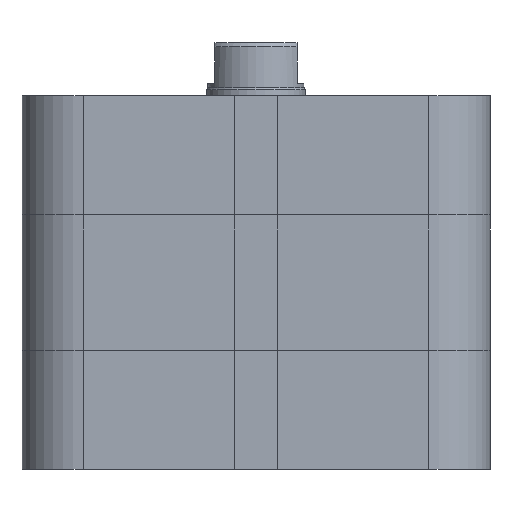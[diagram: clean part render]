
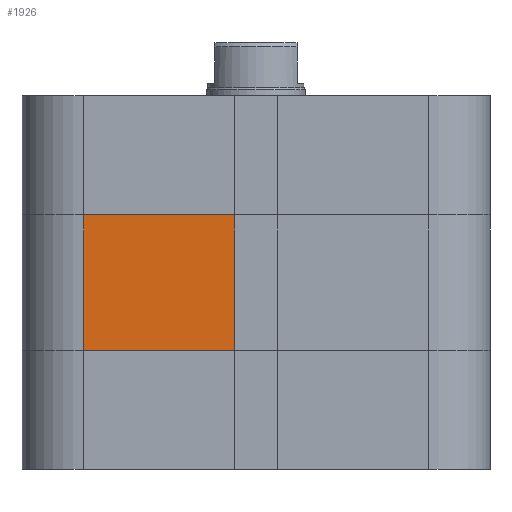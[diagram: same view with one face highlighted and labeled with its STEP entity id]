
A CAD part, front view. The second image highlights one B-rep face of the part: STEP entity #1926.
In plain terms, the highlighted planar face has unit normal (0, -1, 0).
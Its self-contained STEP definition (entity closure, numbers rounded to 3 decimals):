
#1837=CARTESIAN_POINT('',(-21.0,-28.5,14.5));
#1838=VERTEX_POINT('',#1837);
#1846=CARTESIAN_POINT('',(-21.0,-28.5,31.));
#1847=VERTEX_POINT('',#1846);
#1848=CARTESIAN_POINT('',(-21.0,-28.5,14.5));
#1849=DIRECTION('',(0.0,0.0,1.0));
#1850=VECTOR('',#1849,16.5);
#1851=LINE('',#1848,#1850);
#1852=EDGE_CURVE('',#1838,#1847,#1851,.T.);
#1896=CARTESIAN_POINT('',(-2.6,-28.5,0.0));
#1897=DIRECTION('',(0.0,-1.0,0.0));
#1898=DIRECTION('',(0.0,0.0,-1.0));
#1899=AXIS2_PLACEMENT_3D('',#1896,#1897,#1898);
#1900=PLANE('',#1899);
#1901=CARTESIAN_POINT('',(-2.6,-28.5,14.5));
#1902=VERTEX_POINT('',#1901);
#1903=CARTESIAN_POINT('',(-21.0,-28.5,14.5));
#1904=DIRECTION('',(1.0,0.0,0.0));
#1905=VECTOR('',#1904,18.4);
#1906=LINE('',#1903,#1905);
#1907=EDGE_CURVE('',#1838,#1902,#1906,.T.);
#1908=ORIENTED_EDGE('',*,*,#1907,.T.);
#1909=CARTESIAN_POINT('',(-2.6,-28.5,31.));
#1910=VERTEX_POINT('',#1909);
#1911=CARTESIAN_POINT('',(-2.6,-28.5,14.5));
#1912=DIRECTION('',(0.0,0.0,1.0));
#1913=VECTOR('',#1912,16.5);
#1914=LINE('',#1911,#1913);
#1915=EDGE_CURVE('',#1902,#1910,#1914,.T.);
#1916=ORIENTED_EDGE('',*,*,#1915,.T.);
#1917=CARTESIAN_POINT('',(-21.0,-28.5,31.));
#1918=DIRECTION('',(1.0,0.0,0.0));
#1919=VECTOR('',#1918,18.4);
#1920=LINE('',#1917,#1919);
#1921=EDGE_CURVE('',#1847,#1910,#1920,.T.);
#1922=ORIENTED_EDGE('',*,*,#1921,.F.);
#1923=ORIENTED_EDGE('',*,*,#1852,.F.);
#1924=EDGE_LOOP('',(#1908,#1916,#1922,#1923));
#1925=FACE_OUTER_BOUND('',#1924,.T.);
#1926=ADVANCED_FACE('',(#1925),#1900,.T.);
